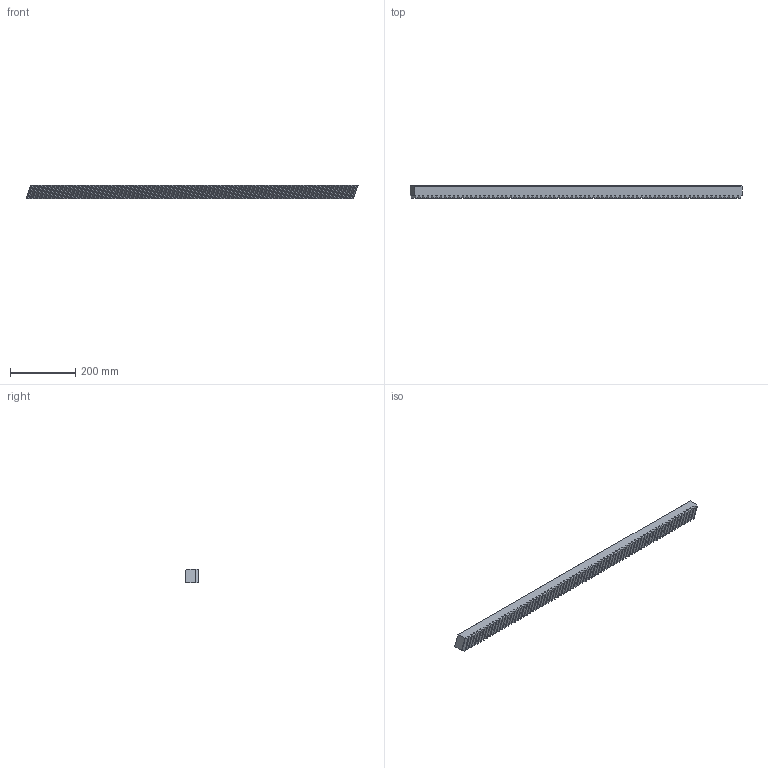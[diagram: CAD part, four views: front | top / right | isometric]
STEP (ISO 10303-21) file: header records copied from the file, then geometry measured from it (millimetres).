
FILE_DESCRIPTION(/* description */ (''),/* implementation_level */ '2;1');
FILE_NAME(/* name */ 'BL-1HR29R040100.ipt',/* time_stamp */ '2019-06-18T14:27:02+02:00',/* author */ ('VĂ©gh MĂˇtĂ©'),/* organization */ ('Bearing Kft'),/* preprocessor_version */ 'ST-DEVELOPER v16.7',/* originating_system */ 'DEX',/* authorisation */ $);
FILE_SCHEMA (('AUTOMOTIVE_DESIGN {1 0 10303 214 3 1 1}'));
Length unit declared in the file: millimetre
Products named in the file (1): BL-1HR29R040100.ipt
Bounding box: 1014.19 x 39 x 40 mm (x, y, z)
Volume: 1385076.8 mm3; surface area: 190280.4 mm2
Topology: 1 solids, 1 shells, 791 faces, 2196 edges, 1464 vertices
Faces by surface type: plane 562, bspline 227, cylinder 2
Entity records: 30650 total; most frequent: CARTESIAN_POINT 11497, ORIENTED_EDGE 4372, DIRECTION 3166, EDGE_CURVE 2186, LINE 1728, VECTOR 1728, VERTEX_POINT 1464, EDGE_LOOP 858
